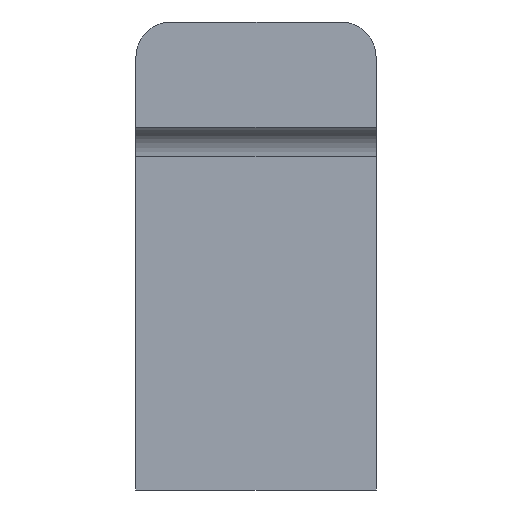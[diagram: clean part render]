
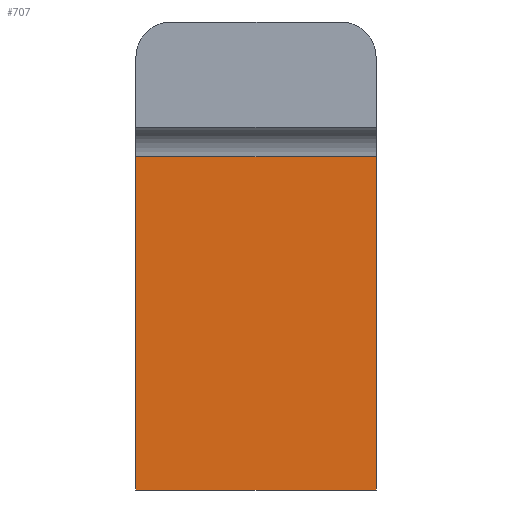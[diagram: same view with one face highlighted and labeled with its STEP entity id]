
A CAD part, left-side view. The second image highlights one B-rep face of the part: STEP entity #707.
In plain terms, the highlighted planar face has unit normal (-1, 0, 0).
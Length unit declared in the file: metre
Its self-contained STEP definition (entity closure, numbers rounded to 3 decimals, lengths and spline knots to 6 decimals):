
#33=ORIENTED_EDGE('',*,*,#229,.F.);
#34=ORIENTED_EDGE('',*,*,#230,.T.);
#35=ORIENTED_EDGE('',*,*,#231,.T.);
#36=ORIENTED_EDGE('',*,*,#232,.T.);
#229=EDGE_CURVE('',#327,#328,#395,.T.);
#230=EDGE_CURVE('',#327,#329,#396,.T.);
#231=EDGE_CURVE('',#329,#330,#397,.T.);
#232=EDGE_CURVE('',#330,#328,#398,.T.);
#327=VERTEX_POINT('',#1007);
#328=VERTEX_POINT('',#1008);
#329=VERTEX_POINT('',#1010);
#330=VERTEX_POINT('',#1012);
#395=LINE('',#1006,#479);
#396=LINE('',#1009,#480);
#397=LINE('',#1011,#481);
#398=LINE('',#1013,#482);
#479=VECTOR('',#816,1.);
#480=VECTOR('',#817,1.);
#481=VECTOR('',#818,1.);
#482=VECTOR('',#819,1.);
#563=EDGE_LOOP('',(#33,#34,#35,#36));
#619=FACE_BOUND('',#563,.T.);
#675=PLANE('',#759);
#707=ADVANCED_FACE('',(#619),#675,.T.);
#759=AXIS2_PLACEMENT_3D('',#1005,#814,#815);
#814=DIRECTION('',(-1.,0.,0.));
#815=DIRECTION('',(0.,0.,1.));
#816=DIRECTION('',(0.,0.,-1.));
#817=DIRECTION('',(0.,1.,0.));
#818=DIRECTION('',(0.,0.,-1.));
#819=DIRECTION('',(0.,-1.,0.));
#1005=CARTESIAN_POINT('',(-0.040933,-0.014804,0.0703));
#1006=CARTESIAN_POINT('',(-0.040933,-0.03809,0.0703));
#1007=CARTESIAN_POINT('',(-0.040933,-0.03809,0.059606));
#1008=CARTESIAN_POINT('',(-0.040933,-0.03809,-0.005));
#1009=CARTESIAN_POINT('',(-0.040933,0.008483,0.059606));
#1010=CARTESIAN_POINT('',(-0.040933,0.008483,0.059606));
#1011=CARTESIAN_POINT('',(-0.040933,0.008483,0.0703));
#1012=CARTESIAN_POINT('',(-0.040933,0.008483,-0.005));
#1013=CARTESIAN_POINT('',(-0.040933,-0.016975,-0.005));
